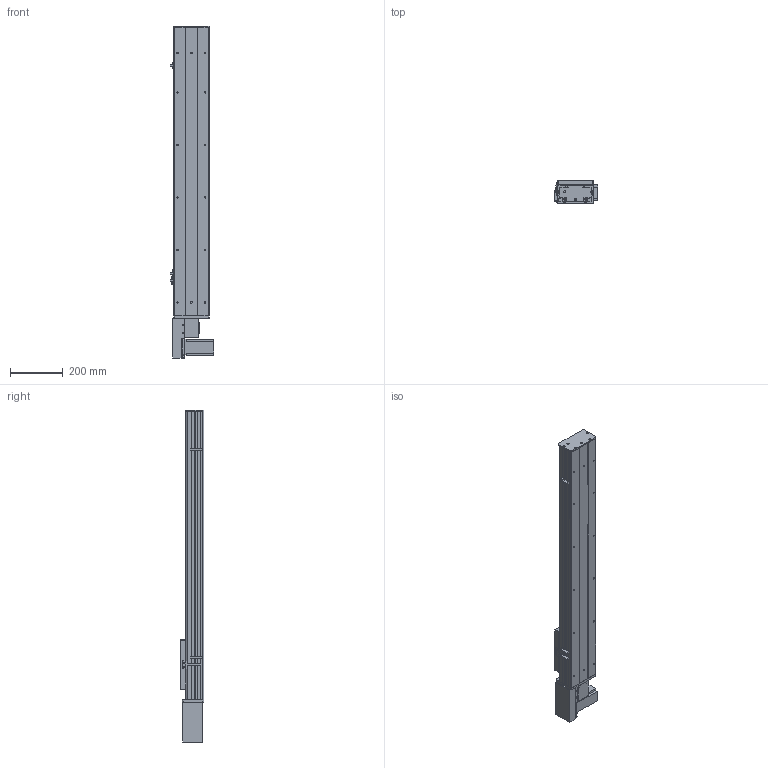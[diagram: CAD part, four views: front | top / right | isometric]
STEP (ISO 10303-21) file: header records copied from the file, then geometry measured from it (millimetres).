
FILE_DESCRIPTION (( 'STEP AP203' ), '1' );
FILE_NAME ('Y135CB-D90-S800-BR-P400W.STEP', '2020-02-18T02:19:02', ( '微软用户' ), ( '微软中国' ), 'SwSTEP 2.0', 'SolidWorks 2017', '' );
FILE_SCHEMA (( 'CONFIG_CONTROL_DESIGN' ));
Length unit declared in the file: millimetre
Products named in the file (18): C-雄赽釱--; 0B-萇儂楊擘啣; Y10B--々湍喘謫眊--666; san松下电机400不带刹车----; Y135CB-D90-S800-BR-P400W; 5CB --掛极耜裔啣-; C-詩湍揤踡え-陔; 135CB--詩湍-CE; Y10B-耜蚾蟀諉啣----; Y135CB-耜裔; Y100-135俋离換覜ん--; Y俋欶BR----; 135CB---遴掛极.-; Y135C-陔俋离換覜結え-; 0B-埴倛裔啣; 35CB---喘謫眊楊擘啣; 5C--俋欶; 0B-源倛裔啣
Assembly tree (21 placements, depth 2):
  Y135CB-D90-S800-BR-P400W
    Y135CB-耜裔
    135CB---遴掛极.-
    35CB---喘謫眊楊擘啣
    Y10B-耜蚾蟀諉啣----
    Y俋欶BR----
    0B-埴倛裔啣
    0B-源倛裔啣
    0B-萇儂楊擘啣
    san松下电机400不带刹车----
    5CB --掛极耜裔啣-  x2
    C-詩湍揤踡え-陔  x2
    135CB--詩湍-CE
    Y100-135俋离換覜ん--  x3
    Y135C-陔俋离換覜結え-
    5C--俋欶
    C-雄赽釱--
    Y10B--々湍喘謫眊--666
Bounding box: 167.5 x 91 x 1264.5 mm (x, y, z)
Volume: 3867920.1 mm3; surface area: 1508821 mm2
Topology: 21 solids, 21 shells, 941 faces, 2509 edges, 1662 vertices
Faces by surface type: cylinder 467, plane 458, cone 16
Entity records: 29139 total; most frequent: DIRECTION 4837, CARTESIAN_POINT 4768, ORIENTED_EDGE 4494, EDGE_CURVE 2247, AXIS2_PLACEMENT_3D 1759, VERTEX_POINT 1490, LINE 1319, VECTOR 1319
